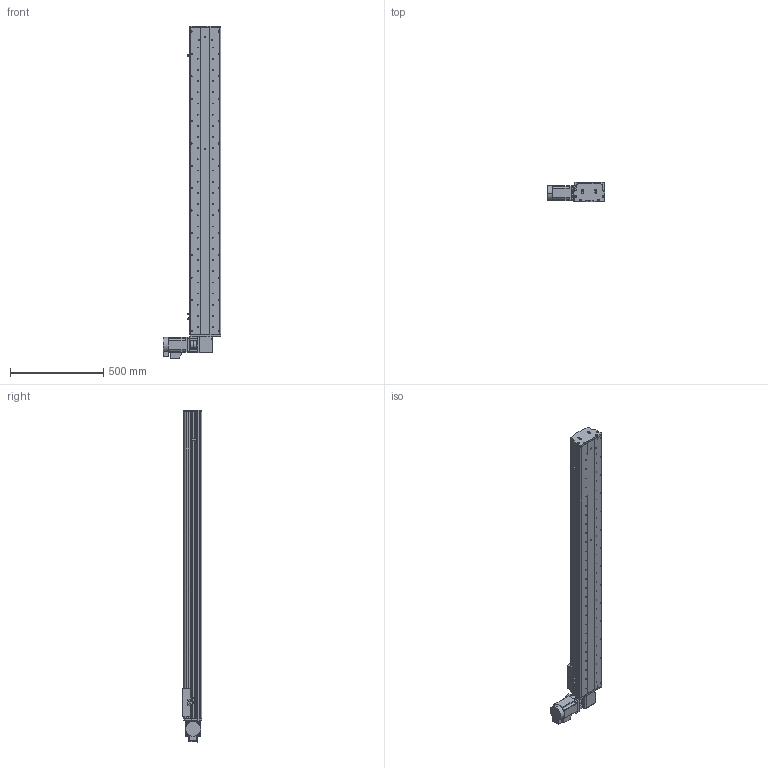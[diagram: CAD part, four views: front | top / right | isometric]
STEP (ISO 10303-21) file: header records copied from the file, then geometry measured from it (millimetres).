
FILE_DESCRIPTION (( 'STEP AP214' ), '1' );
FILE_NAME ('KSD165B-S1400-MRT-CM .STEP', '2017-10-17T01:44:06', ( '微软用户' ), ( '微软中国' ), 'SwSTEP 2.0', 'SolidWorks 2014', '' );
FILE_SCHEMA (( 'AUTOMOTIVE_DESIGN' ));
Length unit declared in the file: millimetre
Products named in the file (16): KSD165B-S1400-MRT-CM ; 165宽马达安装板同步带左-改; KSD165模组-同步带防尘盖1-1400行程; KSD165模组同步带底板-1400行程; 拸秶雄ん750W侜督萇儂; 165宽安装板同步带带电机座750W; C39ㄜ1419WP; U倰嫖萇假蚾璃; U倰嫖萇EEㄜSX672; 覜茼え68遵圉猾敕; KSD165模组-同步带-防撞垫2; KSD165模组同步带-防撞垫1; KSD165耀郪-ヶ傷啣1-肮祭湍; KSD165模组-后端板1-同步带; 130宽马达安装板1-带电机座750W（1）; KSD165模组-同步带滑动座-最新版
Assembly tree (19 placements, depth 2):
  KSD165B-S1400-MRT-CM 
    KSD165模组-同步带滑动座-最新版
    130宽马达安装板1-带电机座750W（1）
    KSD165模组-后端板1-同步带
    KSD165耀郪-ヶ傷啣1-肮祭湍
    KSD165模组同步带-防撞垫1
    KSD165模组-同步带-防撞垫2
    覜茼え68遵圉猾敕
    U倰嫖萇EEㄜSX672  x3
    U倰嫖萇假蚾璃  x3
    C39ㄜ1419WP
    165宽安装板同步带带电机座750W
    拸秶雄ん750W侜督萇儂
    KSD165模组同步带底板-1400行程
    KSD165模组-同步带防尘盖1-1400行程
    165宽马达安装板同步带左-改
Bounding box: 307.5 x 104 x 1781.06 mm (x, y, z)
Volume: 9692170.5 mm3; surface area: 2206317.3 mm2
Topology: 20 solids, 21 shells, 1572 faces, 4386 edges, 2845 vertices
Faces by surface type: cylinder 889, plane 589, cone 94
Entity records: 50795 total; most frequent: CARTESIAN_POINT 10627, DIRECTION 7864, ORIENTED_EDGE 7424, EDGE_CURVE 3712, AXIS2_PLACEMENT_3D 3010, VERTEX_POINT 2437, VECTOR 1844, LINE 1844
